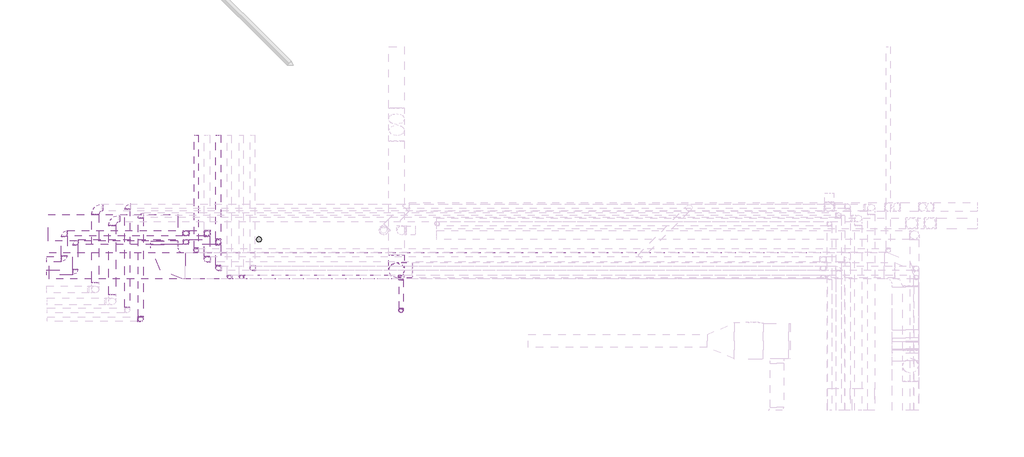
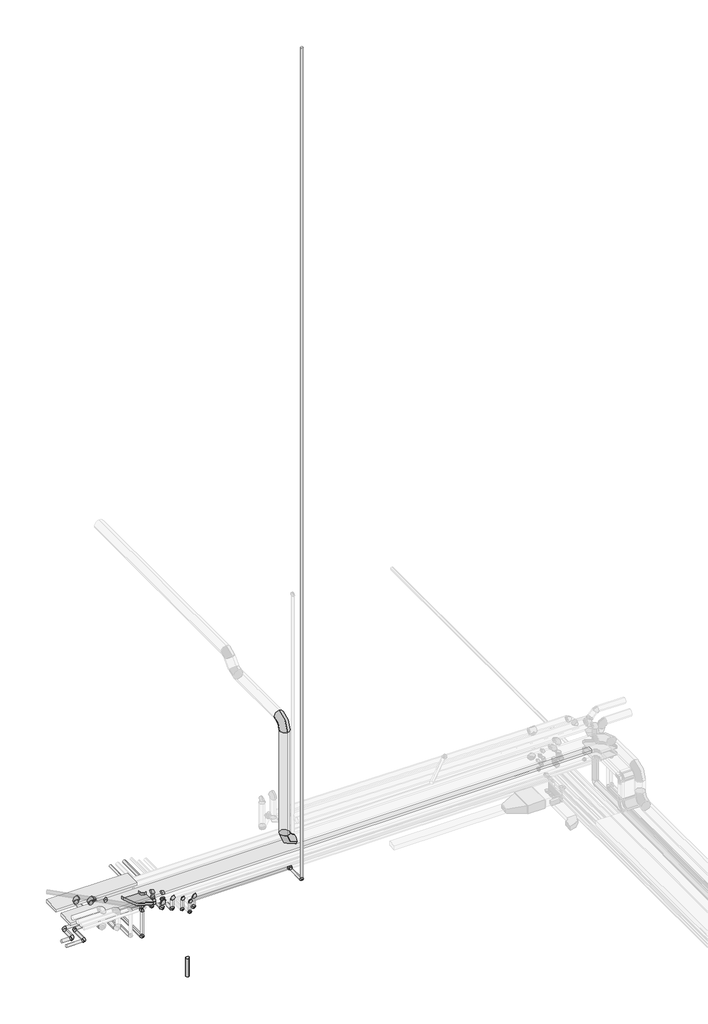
# One storey, part 10 of 12: 32 pipe fittings, 31 pipe segments, 3 cable carrier segments, 2 duct fittings, 1 cable carrier fitting, 1 duct segment.
"""IFC4 building model written with IfcOpenShell, lengths in millimetres."""

from ifc_helpers import new_model, si_unit, point, frame, frame_2d, origin, place, context, project, spatial, polyline, circle_curve, trimmed, segment, composite_curve, outline, extrude, transform, mapped, element, save
from components import m_codo_horizontal_de_canal_el_942b80fb, m_codo_redondo_ext_1_d_63cf0125, pipe_fitting_3b77712d, pipe_fitting_fa3f9604, pipe_fitting_87aeffad, pipe_fitting_2d09eb79, pipe_fitting_e0fa64fe, pipe_fitting_97cb9ba5, pipe_fitting_7933befb, pipe_fitting_996fb7ce, pipe_fitting_18296cc9, pipe_fitting_2828413b

model = new_model("IFC4")

# Units and contexts
model_context = context("Model", 3, world=origin())
ifc_project = project(units=[si_unit("LENGTHUNIT", "METRE", prefix="MILLI")], contexts=[model_context])

# Site, building, storey
site = spatial("IfcSite", under=ifc_project)
building = spatial("IfcBuilding", under=site)
storey = spatial("IfcBuildingStorey", under=building, Name="Nivell -01 PS1_PK", Elevation=1850.0)

# Cable carrier fitting
placement = place(None, origin())
m_codo_horizontal_de_canal_el_shape = m_codo_horizontal_de_canal_el_942b80fb(model_context)
element("IfcCableCarrierFitting", 1, ObjectType="M_Codo horizontal de canal : EL", at=placement, inside=storey, context=model_context, shape_type="MappedRepresentation", body=[
    mapped(m_codo_horizontal_de_canal_el_shape, transform((16669.9823979, 3297.0647098, 5200.0), x_axis=(-1.0, 0.0, 0.0), y_axis=(0.0, -1.0, 0.0), z_axis=(0.0, 0.0, 1.0))),
])

# Cable carrier segments
element("IfcCableCarrierSegment", 2, ObjectType="EL", at=placement, inside=storey, context=model_context, shape_type="SweptSolid", body=[
    extrude(outline(polyline([(32892.3540019, 3597.068534), (32892.3541239, 2997.068534), (14074.9824589, 2997.0647098), (14074.982337, 3597.0647098), (32892.3540019, 3597.068534)])), frame((0.0, 0.0, 5400.0), z_axis=(0.0, 0.0, 1.0), x_axis=(1.0, 0.0, 0.0)), (0.0, 0.0, 1.0), 100.0),
])
element("IfcCableCarrierSegment", 3, ObjectType="EL", at=placement, inside=storey, context=model_context, shape_type="SweptSolid", body=[
    extrude(outline(polyline([(14049.9823979, 3857.9821249), (14049.9823979, 4457.9821249), (16969.9823979, 4457.9821249), (16969.9823979, 3857.9821249), (14049.9823979, 3857.9821249)])), frame((0.0, 0.0, 5400.0), z_axis=(0.0, 0.0, 1.0), x_axis=(1.0, 0.0, 0.0)), (0.0, 0.0, 1.0), 100.0),
])
element("IfcCableCarrierSegment", 4, ObjectType="EL", at=placement, inside=storey, context=model_context, shape_type="SweptSolid", body=[
    extrude(outline(polyline([(16969.9823979, 3772.0647098), (16369.9823979, 3772.0647098), (16369.9823979, 3857.9821249), (16969.9823979, 3857.9821249), (16969.9823979, 3772.0647098)])), frame((0.0, 0.0, 5150.0), z_axis=(0.0, 0.0, 1.0), x_axis=(1.0, 0.0, 0.0)), (0.0, 0.0, 1.0), 100.0),
])

# Duct fittings
m_codo_redondo_ext_1_d_shape = m_codo_redondo_ext_1_d_63cf0125(model_context)
element("IfcDuctFitting", 5, ObjectType="M_Codo redondo : EXT_1 D", at=placement, inside=storey, context=model_context, shape_type="MappedRepresentation", body=[
    mapped(m_codo_redondo_ext_1_d_shape, transform((21901.1871418, 3192.4040569, 10350.0), x_axis=(0.0, 0.0, 1.0), y_axis=(0.0, 1.0, 0.0), z_axis=(-1.0, 0.0, 0.0))),
])
element("IfcDuctFitting", 6, ObjectType="M_Codo redondo : EXT_1 D", at=placement, inside=storey, context=model_context, shape_type="MappedRepresentation", body=[
    mapped(m_codo_redondo_ext_1_d_shape, transform((21901.1871418, 3192.4040569, 5730.0), x_axis=(0.0, 0.0, -1.0), y_axis=(1.0, 0.0, 0.0), z_axis=(0.0, -1.0, 0.0))),
])

# Duct segment
element("IfcDuctSegment", 7, ObjectType="EXT_Acer Galvanitzat - Rígid", at=placement, inside=storey, context=model_context, shape_type="SweptSolid", body=[
    extrude(outline(composite_curve([segment(trimmed(circle_curve(frame_2d((21901.1871418, 3192.4040569)), 175.0), [point((21726.1871418, 3192.4040569))], [point((21901.1871418, 3367.4040569))], False, "CARTESIAN"), True, "CONTINUOUS"), segment(trimmed(circle_curve(frame_2d((21901.1871418, 3192.4040569)), 175.0), [point((21901.1871418, 3367.4040569))], [point((22076.1871418, 3192.4040569))], False, "CARTESIAN"), True, "CONTINUOUS"), segment(trimmed(circle_curve(frame_2d((21901.1871418, 3192.4040569)), 175.0), [point((22076.1871418, 3192.4040569))], [point((21901.1871418, 3017.4040569))], False, "CARTESIAN"), True, "CONTINUOUS"), segment(trimmed(circle_curve(frame_2d((21901.1871418, 3192.4040569)), 175.0), [point((21901.1871418, 3017.4040569))], [point((21726.1871418, 3192.4040569))], False, "CARTESIAN"), True, "CONTINUOUS")], self_intersect=False)), frame((0.0, 0.0, 6080.0), z_axis=(0.0, 0.0, 1.0), x_axis=(1.0, 0.0, 0.0)), (0.0, 0.0, 1.0), 3920.0),
])

# Pipe fittings
pipe_fitting_shape = pipe_fitting_3b77712d(model_context)
element("IfcPipeFitting", 8, ObjectType="M_Codo - Genérico : Estándar", at=placement, inside=storey, context=model_context, shape_type="MappedRepresentation", body=[
    mapped(pipe_fitting_shape, transform((16136.9769568, 2092.9839956, 5850.0), x_axis=(0.0, 0.0, 1.0), y_axis=(0.9999999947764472, -0.0001022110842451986, 0.0), z_axis=(0.0001022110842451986, 0.9999999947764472, 0.0))),
])
element("IfcPipeFitting", 9, ObjectType="M_Codo - Genérico : Estándar", at=placement, inside=storey, context=model_context, shape_type="MappedRepresentation", body=[
    mapped(pipe_fitting_shape, transform((16136.9769568, 2092.9839956, 4795.0), x_axis=(0.0, 0.0, -1.0), y_axis=(-4.268530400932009e-05, -0.9999999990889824, 0.0), z_axis=(-0.9999999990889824, 4.268530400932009e-05, 0.0))),
])
pipe_fitting_2_shape = pipe_fitting_fa3f9604(model_context)
element("IfcPipeFitting", 10, ObjectType="M_Codo - Genérico : Estándar", at=placement, inside=storey, context=model_context, shape_type="MappedRepresentation", body=[
    mapped(pipe_fitting_2_shape, transform((14666.3995886, 3149.7829079, 4545.0), x_axis=(1.0, 0.0, 0.0), y_axis=(0.0, 1.0, 0.0), z_axis=(0.0, 0.0, 1.0))),
])
element("IfcPipeFitting", 11, ObjectType="M_Codo - Genérico : Estándar", at=placement, inside=storey, context=model_context, shape_type="MappedRepresentation", body=[
    mapped(pipe_fitting_2_shape, transform((14666.3995886, 3831.7069686, 4545.0), x_axis=(-1.0, 0.0, 0.0), y_axis=(0.0, -1.0, 0.0), z_axis=(0.0, 0.0, 1.0))),
])
element("IfcPipeFitting", 12, ObjectType="M_Codo - Genérico : Estándar", at=placement, inside=storey, context=model_context, shape_type="MappedRepresentation", body=[
    mapped(pipe_fitting_2_shape, transform((17886.649287, 3241.4395612, 4545.0), x_axis=(0.0, -1.0, 0.0), y_axis=(0.0, 0.0, 1.0), z_axis=(-1.0, 0.0, 0.0))),
])
element("IfcPipeFitting", 13, ObjectType="M_Codo - Genérico : Estándar", at=placement, inside=storey, context=model_context, shape_type="MappedRepresentation", body=[
    mapped(pipe_fitting_2_shape, transform((17886.649287, 3241.4395612, 4995.0), x_axis=(0.0, 0.0, 1.0), y_axis=(1.0, 0.0, 0.0), z_axis=(0.0, 1.0, 0.0))),
])
element("IfcPipeFitting", 14, ObjectType="M_Codo - Genérico : Estándar", at=placement, inside=storey, context=model_context, shape_type="MappedRepresentation", body=[
    mapped(pipe_fitting_2_shape, transform((17158.1058386, 3831.7069686, 4545.0), x_axis=(1.0, 0.0, 0.0), y_axis=(0.0, 0.0, 1.0), z_axis=(0.0, -1.0, 0.0))),
])
element("IfcPipeFitting", 15, ObjectType="M_Codo - Genérico : Estándar", at=placement, inside=storey, context=model_context, shape_type="MappedRepresentation", body=[
    mapped(pipe_fitting_2_shape, transform((17886.649287, 3831.7069686, 4850.0), x_axis=(0.0, 0.0, 1.0), y_axis=(-1.0, 0.0, 0.0), z_axis=(0.0, -1.0, 0.0))),
])
element("IfcPipeFitting", 16, ObjectType="M_Codo - Genérico : Estándar", at=placement, inside=storey, context=model_context, shape_type="MappedRepresentation", body=[
    mapped(pipe_fitting_2_shape, transform((17158.1058386, 3831.7069686, 4850.0), x_axis=(0.0, 0.0, 1.0), y_axis=(1.0, 0.0, 0.0), z_axis=(0.0, 1.0, 0.0))),
])
element("IfcPipeFitting", 17, ObjectType="M_Codo - Genérico : Estándar", at=placement, inside=storey, context=model_context, shape_type="MappedRepresentation", body=[
    mapped(pipe_fitting_2_shape, transform((18657.500884, 3241.4395612, 4345.0), x_axis=(0.0, 0.0, -1.0), y_axis=(0.0, 1.0, 0.0), z_axis=(1.0, 0.0, 0.0))),
])
element("IfcPipeFitting", 18, ObjectType="M_Codo - Genérico : Estándar", at=placement, inside=storey, context=model_context, shape_type="MappedRepresentation", body=[
    mapped(pipe_fitting_2_shape, transform((18657.500884, 3241.4395612, 4795.0), x_axis=(0.0, 0.0, 1.0), y_axis=(1.0, 0.0, 0.0), z_axis=(0.0, 1.0, 0.0))),
])
pipe_fitting_3_shape = pipe_fitting_87aeffad(model_context)
element("IfcPipeFitting", 19, ObjectType="M_Codo - Genérico : Estándar", at=placement, inside=storey, context=model_context, shape_type="MappedRepresentation", body=[
    mapped(pipe_fitting_3_shape, transform((18136.649287, 3041.4395612, 5005.0), x_axis=(-1.0, 0.0, 0.0), y_axis=(0.0, 0.0, -1.0), z_axis=(0.0, -1.0, 0.0))),
])
element("IfcPipeFitting", 20, ObjectType="M_Codo - Genérico : Estándar", at=placement, inside=storey, context=model_context, shape_type="MappedRepresentation", body=[
    mapped(pipe_fitting_3_shape, transform((18136.649287, 3041.4395612, 4555.0), x_axis=(0.0, 0.0, -1.0), y_axis=(0.0, 1.0, 0.0), z_axis=(1.0, 0.0, 0.0))),
])
element("IfcPipeFitting", 21, ObjectType="M_Codo - Genérico : Estándar", at=placement, inside=storey, context=model_context, shape_type="MappedRepresentation", body=[
    mapped(pipe_fitting_3_shape, transform((17384.4945421, 3641.4395612, 4555.0), x_axis=(0.0, -1.0, 0.0), y_axis=(0.0, 0.0, 1.0), z_axis=(-1.0, 0.0, 0.0))),
])
element("IfcPipeFitting", 22, ObjectType="M_Codo - Genérico : Estándar", at=placement, inside=storey, context=model_context, shape_type="MappedRepresentation", body=[
    mapped(pipe_fitting_3_shape, transform((17384.4945421, 3641.4395612, 5005.0), x_axis=(0.0, 0.0, 1.0), y_axis=(1.0, 0.0, 0.0), z_axis=(0.0, 1.0, 0.0))),
])
element("IfcPipeFitting", 23, ObjectType="M_Codo - Genérico : Estándar", at=placement, inside=storey, context=model_context, shape_type="MappedRepresentation", body=[
    mapped(pipe_fitting_3_shape, transform((18407.500884, 3041.4395612, 4355.0), x_axis=(0.0, -1.0, 0.0), y_axis=(0.0, 0.0, 1.0), z_axis=(-1.0, 0.0, 0.0))),
])
element("IfcPipeFitting", 24, ObjectType="M_Codo - Genérico : Estándar", at=placement, inside=storey, context=model_context, shape_type="MappedRepresentation", body=[
    mapped(pipe_fitting_3_shape, transform((18407.500884, 3041.4395612, 4805.0), x_axis=(0.0, 0.0, 1.0), y_axis=(1.0, 0.0, 0.0), z_axis=(0.0, 1.0, 0.0))),
])
element("IfcPipeFitting", 25, ObjectType="M_Codo - Genérico : Estándar", at=placement, inside=storey, context=model_context, shape_type="MappedRepresentation", body=[
    mapped(pipe_fitting_3_shape, transform((22002.359144, 2285.1274433, 4805.0), x_axis=(0.0, 0.0, -1.0), y_axis=(0.0, 1.0, 0.0), z_axis=(1.0, 0.0, 0.0))),
])
pipe_fitting_4_shape = pipe_fitting_2d09eb79(model_context)
element("IfcPipeFitting", 26, ObjectType="M_Te - Genérica : Estándar", at=placement, inside=storey, context=model_context, shape_type="MappedRepresentation", body=[
    mapped(pipe_fitting_4_shape, transform((22002.359144, 3041.4395612, 4805.0), x_axis=(1.0, 0.0, 0.0), y_axis=(0.0, 1.0, 0.0), z_axis=(0.0, 0.0, 1.0))),
])
pipe_fitting_5_shape = pipe_fitting_e0fa64fe(model_context)
element("IfcPipeFitting", 27, ObjectType="M_Codo - Genérico : Estándar", at=placement, inside=storey, context=model_context, shape_type="MappedRepresentation", body=[
    mapped(pipe_fitting_5_shape, transform((14416.3995886, 3449.7829079, 4537.5), x_axis=(1.0, 0.0, 0.0), y_axis=(0.0, 1.0, 0.0), z_axis=(0.0, 0.0, 1.0))),
])
element("IfcPipeFitting", 28, ObjectType="M_Codo - Genérico : Estándar", at=placement, inside=storey, context=model_context, shape_type="MappedRepresentation", body=[
    mapped(pipe_fitting_5_shape, transform((17636.649287, 3441.4395612, 4537.5), x_axis=(0.0, -1.0, 0.0), y_axis=(0.0, 0.0, 1.0), z_axis=(-1.0, 0.0, 0.0))),
])
element("IfcPipeFitting", 29, ObjectType="M_Codo - Genérico : Estándar", at=placement, inside=storey, context=model_context, shape_type="MappedRepresentation", body=[
    mapped(pipe_fitting_5_shape, transform((17636.649287, 3441.4395612, 4787.5), x_axis=(0.0, 0.0, 1.0), y_axis=(1.0, 0.0, 0.0), z_axis=(0.0, 1.0, 0.0))),
])
element("IfcPipeFitting", 30, ObjectType="M_Codo - Genérico : Estándar", at=placement, inside=storey, context=model_context, shape_type="MappedRepresentation", body=[
    mapped(pipe_fitting_5_shape, transform((14416.3995886, 4031.7069686, 4537.5), x_axis=(-1.0, 0.0, 0.0), y_axis=(0.0, -1.0, 0.0), z_axis=(0.0, 0.0, 1.0))),
])
element("IfcPipeFitting", 31, ObjectType="M_Codo - Genérico : Estándar", at=placement, inside=storey, context=model_context, shape_type="MappedRepresentation", body=[
    mapped(pipe_fitting_5_shape, transform((17158.9383365, 4031.7069686, 4537.5), x_axis=(0.0, 0.0, -1.0), y_axis=(-1.0, 0.0, 0.0), z_axis=(0.0, 1.0, 0.0))),
])
element("IfcPipeFitting", 32, ObjectType="M_Codo - Genérico : Estándar", at=placement, inside=storey, context=model_context, shape_type="MappedRepresentation", body=[
    mapped(pipe_fitting_5_shape, transform((17158.9383365, 4031.7069686, 4850.0), x_axis=(0.0, 0.0, 1.0), y_axis=(1.0, 0.0, 0.0), z_axis=(0.0, 1.0, 0.0))),
])
element("IfcPipeFitting", 33, ObjectType="M_Codo - Genérico : Estándar", at=placement, inside=storey, context=model_context, shape_type="MappedRepresentation", body=[
    mapped(pipe_fitting_5_shape, transform((17636.649287, 4031.7069686, 4850.0), x_axis=(0.0, 0.0, 1.0), y_axis=(-1.0, 0.0, 0.0), z_axis=(0.0, -1.0, 0.0))),
])
pipe_fitting_6_shape = pipe_fitting_97cb9ba5(model_context)
element("IfcPipeFitting", 34, ObjectType="M_Te - Genérica : Estándar", at=placement, inside=storey, context=model_context, shape_type="MappedRepresentation", body=[
    mapped(pipe_fitting_6_shape, transform((17636.649287, 4031.7069686, 4537.5), x_axis=(0.0, 1.0, 0.0), y_axis=(0.0, 0.0, -1.0), z_axis=(-1.0, 0.0, 0.0))),
])
pipe_fitting_7_shape = pipe_fitting_7933befb(model_context)
element("IfcPipeFitting", 35, ObjectType="M_Te - Genérica : Estándar", at=placement, inside=storey, context=model_context, shape_type="MappedRepresentation", body=[
    mapped(pipe_fitting_7_shape, transform((17886.649287, 3831.7069686, 4545.0), x_axis=(0.0, -1.0, 0.0), y_axis=(0.0, 0.0, -1.0), z_axis=(1.0, 0.0, 0.0))),
])
pipe_fitting_8_shape = pipe_fitting_996fb7ce(model_context)
element("IfcPipeFitting", 36, ObjectType="M_Codo - Genérico : Estándar", at=placement, inside=storey, context=model_context, shape_type="MappedRepresentation", body=[
    mapped(pipe_fitting_8_shape, transform((16137.0623018, 4439.2153677, 4795.0), x_axis=(-5.689495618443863e-05, 0.999999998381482, 0.0), y_axis=(-0.999999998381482, -5.689495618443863e-05, 0.0), z_axis=(0.0, 0.0, 1.0))),
])
pipe_fitting_9_shape = pipe_fitting_18296cc9(model_context)
element("IfcPipeFitting", 37, ObjectType="M_Codo - Genérico : Estándar", at=placement, inside=storey, context=model_context, shape_type="MappedRepresentation", body=[
    mapped(pipe_fitting_9_shape, transform((15837.0598197, 4639.2237064, 4795.0), x_axis=(-0.9999999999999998, -2.2515615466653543e-08, 0.0), y_axis=(2.2515615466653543e-08, -0.9999999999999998, 0.0), z_axis=(0.0, 0.0, 1.0))),
])
pipe_fitting_10_shape = pipe_fitting_2828413b(model_context)
element("IfcPipeFitting", 38, ObjectType="Codo 90º Soldadura a Tope SDR 11 BluePipe : Estándar", at=placement, inside=storey, context=model_context, shape_type="MappedRepresentation", body=[
    mapped(pipe_fitting_10_shape, transform((15497.0783973, 4358.8328238, 5050.0), x_axis=(-0.9999999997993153, -2.0034207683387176e-05, 0.0), y_axis=(2.0034207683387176e-05, -0.9999999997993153, 0.0), z_axis=(0.0, 0.0, 1.0))),
])
element("IfcPipeFitting", 39, ObjectType="Codo 90º Soldadura a Tope SDR 11 BluePipe : Estándar", at=placement, inside=storey, context=model_context, shape_type="MappedRepresentation", body=[
    mapped(pipe_fitting_10_shape, transform((15117.0704267, 4608.760649, 5050.0000696), x_axis=(-0.9999999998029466, -1.985212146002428e-05, 0.0), y_axis=(1.985212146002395e-05, -0.9999999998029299, -1.8351755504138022e-07), z_axis=(3.643212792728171e-12, -1.8351755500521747e-07, 0.9999999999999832))),
])

# Pipe segments
element("IfcPipeSegment", 40, ObjectType="PVC_Baixant", at=placement, inside=storey, context=model_context, shape_type="SweptSolid", body=[
    extrude(outline(composite_curve([segment(trimmed(circle_curve(frame_2d((18802.8918148, 3893.6005797)), 62.5), [point((18740.3918148, 3893.6005797))], [point((18802.8918148, 3956.1005797))], False, "CARTESIAN"), True, "CONTINUOUS"), segment(trimmed(circle_curve(frame_2d((18802.8918148, 3893.6005797)), 62.5), [point((18802.8918148, 3956.1005797))], [point((18865.3918148, 3893.6005797))], False, "CARTESIAN"), True, "CONTINUOUS"), segment(trimmed(circle_curve(frame_2d((18802.8918148, 3893.6005797)), 62.5), [point((18865.3918148, 3893.6005797))], [point((18802.8918148, 3831.1005797))], False, "CARTESIAN"), True, "CONTINUOUS"), segment(trimmed(circle_curve(frame_2d((18802.8918148, 3893.6005797)), 62.5), [point((18802.8918148, 3831.1005797))], [point((18740.3918148, 3893.6005797))], False, "CARTESIAN"), True, "CONTINUOUS")], self_intersect=False)), frame((0.0, 0.0, 1287.1903101), z_axis=(0.0, 0.0, 1.0), x_axis=(1.0, 0.0, 0.0)), (0.0, 0.0, 1.0), 700.0),
])
element("IfcPipeSegment", 41, ObjectType="PP_FN", at=placement, inside=storey, context=model_context, shape_type="SweptSolid", body=[
    extrude(outline(composite_curve([segment(trimmed(circle_curve(frame_2d((4555.0, 17384.4945421)), 45.0), [point((4555.0, 17429.4945421))], [point((4600.0, 17384.4945421))], False, "CARTESIAN"), True, "CONTINUOUS"), segment(trimmed(circle_curve(frame_2d((4555.0, 17384.4945421)), 45.0), [point((4600.0, 17384.4945421))], [point((4555.0, 17339.4945421))], False, "CARTESIAN"), True, "CONTINUOUS"), segment(trimmed(circle_curve(frame_2d((4555.0, 17384.4945421)), 45.0), [point((4555.0, 17339.4945421))], [point((4510.0, 17384.4945421))], False, "CARTESIAN"), True, "CONTINUOUS"), segment(trimmed(circle_curve(frame_2d((4555.0, 17384.4945421)), 45.0), [point((4510.0, 17384.4945421))], [point((4555.0, 17429.4945421))], False, "CARTESIAN"), True, "CONTINUOUS")], self_intersect=False)), frame((0.0, 3693.8270612, 0.0), z_axis=(0.0, 1.0, 0.0), x_axis=(0.0, 0.0, 1.0)), (0.0, 0.0, 1.0), 2547.6125),
])
element("IfcPipeSegment", 42, ObjectType="PP_FN", at=placement, inside=storey, context=model_context, shape_type="SweptSolid", body=[
    extrude(outline(composite_curve([segment(trimmed(circle_curve(frame_2d((4537.5, 14416.3995886)), 62.5), [point((4537.5, 14353.8995886))], [point((4475.0, 14416.3995886))], False, "CARTESIAN"), True, "CONTINUOUS"), segment(trimmed(circle_curve(frame_2d((4537.5, 14416.3995886)), 62.5), [point((4475.0, 14416.3995886))], [point((4537.5, 14478.8995886))], False, "CARTESIAN"), True, "CONTINUOUS"), segment(trimmed(circle_curve(frame_2d((4537.5, 14416.3995886)), 62.5), [point((4537.5, 14478.8995886))], [point((4600.0, 14416.3995886))], False, "CARTESIAN"), True, "CONTINUOUS"), segment(trimmed(circle_curve(frame_2d((4537.5, 14416.3995886)), 62.5), [point((4600.0, 14416.3995886))], [point((4537.5, 14353.8995886))], False, "CARTESIAN"), True, "CONTINUOUS")], self_intersect=False)), frame((0.0, 3521.2204079, 0.0), z_axis=(0.0, 1.0, 0.0), x_axis=(0.0, 0.0, 1.0)), (0.0, 0.0, 1.0), 439.0490607),
])
element("IfcPipeSegment", 43, ObjectType="PP_FN", at=placement, inside=storey, context=model_context, shape_type="SweptSolid", body=[
    extrude(outline(composite_curve([segment(trimmed(circle_curve(frame_2d((4545.0, 14666.3995886)), 55.0), [point((4545.0, 14611.3995886))], [point((4490.0, 14666.3995886))], False, "CARTESIAN"), True, "CONTINUOUS"), segment(trimmed(circle_curve(frame_2d((4545.0, 14666.3995886)), 55.0), [point((4490.0, 14666.3995886))], [point((4545.0, 14721.3995886))], False, "CARTESIAN"), True, "CONTINUOUS"), segment(trimmed(circle_curve(frame_2d((4545.0, 14666.3995886)), 55.0), [point((4545.0, 14721.3995886))], [point((4600.0, 14666.3995886))], False, "CARTESIAN"), True, "CONTINUOUS"), segment(trimmed(circle_curve(frame_2d((4545.0, 14666.3995886)), 55.0), [point((4600.0, 14666.3995886))], [point((4545.0, 14611.3995886))], False, "CARTESIAN"), True, "CONTINUOUS")], self_intersect=False)), frame((0.0, 3212.7204079, 0.0), z_axis=(0.0, 1.0, 0.0), x_axis=(0.0, 0.0, 1.0)), (0.0, 0.0, 1.0), 556.0490607),
])
element("IfcPipeSegment", 44, ObjectType="PP_FN", at=placement, inside=storey, context=model_context, shape_type="SweptSolid", body=[
    extrude(outline(composite_curve([segment(trimmed(circle_curve(frame_2d((3449.7829079, 4537.5)), 62.5), [point((3512.2829079, 4537.5))], [point((3449.7829079, 4475.0))], False, "CARTESIAN"), True, "CONTINUOUS"), segment(trimmed(circle_curve(frame_2d((3449.7829079, 4537.5)), 62.5), [point((3449.7829079, 4475.0))], [point((3387.2829079, 4537.5))], False, "CARTESIAN"), True, "CONTINUOUS"), segment(trimmed(circle_curve(frame_2d((3449.7829079, 4537.5)), 62.5), [point((3387.2829079, 4537.5))], [point((3449.7829079, 4600.0))], False, "CARTESIAN"), True, "CONTINUOUS"), segment(trimmed(circle_curve(frame_2d((3449.7829079, 4537.5)), 62.5), [point((3449.7829079, 4600.0))], [point((3512.2829079, 4537.5))], False, "CARTESIAN"), True, "CONTINUOUS")], self_intersect=False)), frame((14017.132411, 0.0, 0.0), z_axis=(1.0, 0.0, 0.0), x_axis=(0.0, 1.0, 0.0)), (0.0, 0.0, 1.0), 327.8296777),
])
element("IfcPipeSegment", 45, ObjectType="PP_FN", at=placement, inside=storey, context=model_context, shape_type="SweptSolid", body=[
    extrude(outline(composite_curve([segment(trimmed(circle_curve(frame_2d((3149.7829079, 4545.0)), 55.0), [point((3204.7829079, 4545.0))], [point((3149.7829079, 4490.0))], False, "CARTESIAN"), True, "CONTINUOUS"), segment(trimmed(circle_curve(frame_2d((3149.7829079, 4545.0)), 55.0), [point((3149.7829079, 4490.0))], [point((3094.7829079, 4545.0))], False, "CARTESIAN"), True, "CONTINUOUS"), segment(trimmed(circle_curve(frame_2d((3149.7829079, 4545.0)), 55.0), [point((3094.7829079, 4545.0))], [point((3149.7829079, 4600.0))], False, "CARTESIAN"), True, "CONTINUOUS"), segment(trimmed(circle_curve(frame_2d((3149.7829079, 4545.0)), 55.0), [point((3149.7829079, 4600.0))], [point((3204.7829079, 4545.0))], False, "CARTESIAN"), True, "CONTINUOUS")], self_intersect=False)), frame((14017.1331632, 0.0, 0.0), z_axis=(1.0, 0.0, 0.0), x_axis=(0.0, 1.0, 0.0)), (0.0, 0.0, 1.0), 586.3289255),
])
element("IfcPipeSegment", 46, ObjectType="PP_FN", at=placement, inside=storey, context=model_context, shape_type="SweptSolid", body=[
    extrude(outline(composite_curve([segment(trimmed(circle_curve(frame_2d((17886.649287, 3831.7069686)), 55.0), [point((17831.649287, 3831.7069686))], [point((17886.649287, 3886.7069686))], False, "CARTESIAN"), True, "CONTINUOUS"), segment(trimmed(circle_curve(frame_2d((17886.649287, 3831.7069686)), 55.0), [point((17886.649287, 3886.7069686))], [point((17941.649287, 3831.7069686))], False, "CARTESIAN"), True, "CONTINUOUS"), segment(trimmed(circle_curve(frame_2d((17886.649287, 3831.7069686)), 55.0), [point((17941.649287, 3831.7069686))], [point((17886.649287, 3776.7069686))], False, "CARTESIAN"), True, "CONTINUOUS"), segment(trimmed(circle_curve(frame_2d((17886.649287, 3831.7069686)), 55.0), [point((17886.649287, 3776.7069686))], [point((17831.649287, 3831.7069686))], False, "CARTESIAN"), True, "CONTINUOUS")], self_intersect=False)), frame((0.0, 0.0, 4614.2875), z_axis=(0.0, 0.0, 1.0), x_axis=(1.0, 0.0, 0.0)), (0.0, 0.0, 1.0), 172.775),
])
element("IfcPipeSegment", 47, ObjectType="PP_FN", at=placement, inside=storey, context=model_context, shape_type="SweptSolid", body=[
    extrude(outline(composite_curve([segment(trimmed(circle_curve(frame_2d((4545.0, 17886.649287)), 55.0), [point((4545.0, 17831.649287))], [point((4490.0, 17886.649287))], False, "CARTESIAN"), True, "CONTINUOUS"), segment(trimmed(circle_curve(frame_2d((4545.0, 17886.649287)), 55.0), [point((4490.0, 17886.649287))], [point((4545.0, 17941.649287))], False, "CARTESIAN"), True, "CONTINUOUS"), segment(trimmed(circle_curve(frame_2d((4545.0, 17886.649287)), 55.0), [point((4545.0, 17941.649287))], [point((4600.0, 17886.649287))], False, "CARTESIAN"), True, "CONTINUOUS"), segment(trimmed(circle_curve(frame_2d((4545.0, 17886.649287)), 55.0), [point((4600.0, 17886.649287))], [point((4545.0, 17831.649287))], False, "CARTESIAN"), True, "CONTINUOUS")], self_intersect=False)), frame((0.0, 3900.9944686, 0.0), z_axis=(0.0, 1.0, 0.0), x_axis=(0.0, 0.0, 1.0)), (0.0, 0.0, 1.0), 2340.4450926),
])
element("IfcPipeSegment", 48, ObjectType="PP_FN", at=placement, inside=storey, context=model_context, shape_type="SweptSolid", body=[
    extrude(outline(composite_curve([segment(trimmed(circle_curve(frame_2d((4545.0, 17886.649287)), 55.0), [point((4545.0, 17941.649287))], [point((4600.0, 17886.649287))], False, "CARTESIAN"), True, "CONTINUOUS"), segment(trimmed(circle_curve(frame_2d((4545.0, 17886.649287)), 55.0), [point((4600.0, 17886.649287))], [point((4545.0, 17831.649287))], False, "CARTESIAN"), True, "CONTINUOUS"), segment(trimmed(circle_curve(frame_2d((4545.0, 17886.649287)), 55.0), [point((4545.0, 17831.649287))], [point((4490.0, 17886.649287))], False, "CARTESIAN"), True, "CONTINUOUS"), segment(trimmed(circle_curve(frame_2d((4545.0, 17886.649287)), 55.0), [point((4490.0, 17886.649287))], [point((4545.0, 17941.649287))], False, "CARTESIAN"), True, "CONTINUOUS")], self_intersect=False)), frame((0.0, 3304.3770612, 0.0), z_axis=(0.0, 1.0, 0.0), x_axis=(0.0, 0.0, 1.0)), (0.0, 0.0, 1.0), 458.0424074),
])
element("IfcPipeSegment", 49, ObjectType="PP_FN", at=placement, inside=storey, context=model_context, shape_type="SweptSolid", body=[
    extrude(outline(composite_curve([segment(trimmed(circle_curve(frame_2d((4805.0, 22002.359144)), 45.0), [point((4805.0, 22047.359144))], [point((4850.0, 22002.359144))], False, "CARTESIAN"), True, "CONTINUOUS"), segment(trimmed(circle_curve(frame_2d((4805.0, 22002.359144)), 45.0), [point((4850.0, 22002.359144))], [point((4805.0, 21957.359144))], False, "CARTESIAN"), True, "CONTINUOUS"), segment(trimmed(circle_curve(frame_2d((4805.0, 22002.359144)), 45.0), [point((4805.0, 21957.359144))], [point((4760.0, 22002.359144))], False, "CARTESIAN"), True, "CONTINUOUS"), segment(trimmed(circle_curve(frame_2d((4805.0, 22002.359144)), 45.0), [point((4760.0, 22002.359144))], [point((4805.0, 22047.359144))], False, "CARTESIAN"), True, "CONTINUOUS")], self_intersect=False)), frame((0.0, 2337.5149433, 0.0), z_axis=(0.0, 1.0, 0.0), x_axis=(0.0, 0.0, 1.0)), (0.0, 0.0, 1.0), 645.1871179),
])
element("IfcPipeSegment", 50, ObjectType="PP_FN", at=placement, inside=storey, context=model_context, shape_type="SweptSolid", body=[
    extrude(outline(composite_curve([segment(trimmed(circle_curve(frame_2d((22002.359144, 2285.1274433)), 45.0), [point((22047.359144, 2285.1274433))], [point((22002.359144, 2240.1274433))], False, "CARTESIAN"), True, "CONTINUOUS"), segment(trimmed(circle_curve(frame_2d((22002.359144, 2285.1274433)), 45.0), [point((22002.359144, 2240.1274433))], [point((21957.359144, 2285.1274433))], False, "CARTESIAN"), True, "CONTINUOUS"), segment(trimmed(circle_curve(frame_2d((22002.359144, 2285.1274433)), 45.0), [point((21957.359144, 2285.1274433))], [point((22002.359144, 2330.1274433))], False, "CARTESIAN"), True, "CONTINUOUS"), segment(trimmed(circle_curve(frame_2d((22002.359144, 2285.1274433)), 45.0), [point((22002.359144, 2330.1274433))], [point((22047.359144, 2285.1274433))], False, "CARTESIAN"), True, "CONTINUOUS")], self_intersect=False)), frame((0.0, 0.0, 4857.3875), z_axis=(0.0, 0.0, 1.0), x_axis=(1.0, 0.0, 0.0)), (0.0, 0.0, 1.0), 31642.6125),
])
element("IfcPipeSegment", 51, ObjectType="PPR_CLI_Aquatherm Blue Pipe", at=placement, inside=storey, context=model_context, shape_type="SweptSolid", body=[
    extrude(outline(composite_curve([segment(trimmed(circle_curve(frame_2d((0.0, 80.0000001)), 80.0), [point((0.0, 160.0))], [point((80.0, 80.0000001))], False, "CARTESIAN"), True, "CONTINUOUS"), segment(trimmed(circle_curve(frame_2d((0.0, 80.0000001)), 80.0), [point((80.0, 80.0000001))], [point((0.0, 0.0))], False, "CARTESIAN"), True, "CONTINUOUS"), segment(trimmed(circle_curve(frame_2d((0.0, 80.0000001)), 80.0), [point((0.0, 0.0))], [point((-80.0, 80.0000001))], False, "CARTESIAN"), True, "CONTINUOUS"), segment(trimmed(circle_curve(frame_2d((0.0, 80.0000001)), 80.0), [point((-80.0, 80.0000001))], [point((0.0, 160.0))], False, "CARTESIAN"), True, "CONTINUOUS")], self_intersect=False)), frame((15037.1728997, 2907.9445938, 5049.9997574), z_axis=(-6.488271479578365e-05, 0.9999999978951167, 0.0), x_axis=(0.0, 0.0, 1.0)), (0.0, 0.0, 1.0), 1555.8108678),
])
element("IfcPipeSegment", 52, ObjectType="PPR_CLI_Aquatherm Blue Pipe", at=placement, inside=storey, context=model_context, shape_type="SweptSolid", body=[
    extrude(outline(composite_curve([segment(trimmed(circle_curve(frame_2d((0.0, 80.0)), 80.0), [point((0.0, 160.0))], [point((80.0, 80.0))], False, "CARTESIAN"), True, "CONTINUOUS"), segment(trimmed(circle_curve(frame_2d((0.0, 80.0)), 80.0), [point((80.0, 80.0))], [point((0.0, 0.0))], False, "CARTESIAN"), True, "CONTINUOUS"), segment(trimmed(circle_curve(frame_2d((0.0, 80.0)), 80.0), [point((0.0, 0.0))], [point((-80.0, 80.0))], False, "CARTESIAN"), True, "CONTINUOUS"), segment(trimmed(circle_curve(frame_2d((0.0, 80.0)), 80.0), [point((-80.0, 80.0))], [point((0.0, 160.0))], False, "CARTESIAN"), True, "CONTINUOUS")], self_intersect=False)), frame((15417.1825772, 2637.9198806, 5050.0), z_axis=(-6.512273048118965e-05, 0.999999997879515, 0.0), x_axis=(0.0, 0.0, 1.0)), (0.0, 0.0, 1.0), 1575.9077367),
])
element("IfcPipeSegment", 53, ObjectType="PPR_CLI_Aquatherm Blue Pipe", at=placement, inside=storey, context=model_context, shape_type="SweptSolid", body=[
    extrude(outline(composite_curve([segment(trimmed(circle_curve(frame_2d((0.0, 55.0)), 55.0), [point((0.0, 110.0))], [point((55.0, 55.0))], False, "CARTESIAN"), True, "CONTINUOUS"), segment(trimmed(circle_curve(frame_2d((0.0, 55.0)), 55.0), [point((55.0, 55.0))], [point((0.0, 0.0))], False, "CARTESIAN"), True, "CONTINUOUS"), segment(trimmed(circle_curve(frame_2d((0.0, 55.0)), 55.0), [point((0.0, 0.0))], [point((-55.0, 55.0))], False, "CARTESIAN"), True, "CONTINUOUS"), segment(trimmed(circle_curve(frame_2d((0.0, 55.0)), 55.0), [point((-55.0, 55.0))], [point((0.0, 110.0))], False, "CARTESIAN"), True, "CONTINUOUS")], self_intersect=False)), frame((15781.9713791, 2355.9718923, 4795.0), z_axis=(3.873446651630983e-05, 0.9999999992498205, 0.0), x_axis=(0.0, 0.0, 1.0)), (0.0, 0.0, 1.0), 2220.3188854),
])
element("IfcPipeSegment", 54, ObjectType="PPR_CLI_Aquatherm Blue Pipe", at=placement, inside=storey, context=model_context, shape_type="SweptSolid", body=[
    extrude(outline(composite_curve([segment(trimmed(circle_curve(frame_2d((0.0, -54.9999999)), 55.0), [point((0.0, 0.0))], [point((55.0, -54.9999999))], False, "CARTESIAN"), True, "CONTINUOUS"), segment(trimmed(circle_curve(frame_2d((0.0, -54.9999999)), 55.0), [point((55.0, -54.9999999))], [point((0.0, -110.0))], False, "CARTESIAN"), True, "CONTINUOUS"), segment(trimmed(circle_curve(frame_2d((0.0, -54.9999999)), 55.0), [point((0.0, -110.0))], [point((-55.0, -54.9999999))], False, "CARTESIAN"), True, "CONTINUOUS"), segment(trimmed(circle_curve(frame_2d((0.0, -54.9999999)), 55.0), [point((-55.0, -54.9999999))], [point((0.0, 0.0))], False, "CARTESIAN"), True, "CONTINUOUS")], self_intersect=False)), frame((16081.9796434, 2155.9236318, 4795.0), z_axis=(3.8840451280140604e-05, 0.9999999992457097, 0.0), x_axis=(0.0, 0.0, -1.0)), (0.0, 0.0, 1.0), 2220.3527931),
])
element("IfcPipeSegment", 55, ObjectType="PPR_CLI_Aquatherm Blue Pipe", at=placement, inside=storey, context=model_context, shape_type="SweptSolid", body=[
    extrude(outline(composite_curve([segment(trimmed(circle_curve(frame_2d((16136.9769568, 2092.9839956)), 55.0), [point((16081.9769568, 2092.9839956))], [point((16136.9769568, 2147.9839956))], False, "CARTESIAN"), True, "CONTINUOUS"), segment(trimmed(circle_curve(frame_2d((16136.9769568, 2092.9839956)), 55.0), [point((16136.9769568, 2147.9839956))], [point((16191.9769568, 2092.9839956))], False, "CARTESIAN"), True, "CONTINUOUS"), segment(trimmed(circle_curve(frame_2d((16136.9769568, 2092.9839956)), 55.0), [point((16191.9769568, 2092.9839956))], [point((16136.9769568, 2037.9839956))], False, "CARTESIAN"), True, "CONTINUOUS"), segment(trimmed(circle_curve(frame_2d((16136.9769568, 2092.9839956)), 55.0), [point((16136.9769568, 2037.9839956))], [point((16081.9769568, 2092.9839956))], False, "CARTESIAN"), True, "CONTINUOUS")], self_intersect=False)), frame((0.0, 0.0, 4857.9375), z_axis=(0.0, 0.0, 1.0), x_axis=(1.0, 0.0, 0.0)), (0.0, 0.0, 1.0), 929.125),
])
element("IfcPipeSegment", 56, ObjectType="PP_FN", at=placement, inside=storey, context=model_context, shape_type="SweptSolid", body=[
    extrude(outline(composite_curve([segment(trimmed(circle_curve(frame_2d((18136.649287, 3041.4395612)), 45.0), [point((18181.649287, 3041.4395612))], [point((18136.649287, 2996.4395612))], False, "CARTESIAN"), True, "CONTINUOUS"), segment(trimmed(circle_curve(frame_2d((18136.649287, 3041.4395612)), 45.0), [point((18136.649287, 2996.4395612))], [point((18091.649287, 3041.4395612))], False, "CARTESIAN"), True, "CONTINUOUS"), segment(trimmed(circle_curve(frame_2d((18136.649287, 3041.4395612)), 45.0), [point((18091.649287, 3041.4395612))], [point((18136.649287, 3086.4395612))], False, "CARTESIAN"), True, "CONTINUOUS"), segment(trimmed(circle_curve(frame_2d((18136.649287, 3041.4395612)), 45.0), [point((18136.649287, 3086.4395612))], [point((18181.649287, 3041.4395612))], False, "CARTESIAN"), True, "CONTINUOUS")], self_intersect=False)), frame((0.0, 0.0, 4607.3875), z_axis=(0.0, 0.0, 1.0), x_axis=(1.0, 0.0, 0.0)), (0.0, 0.0, 1.0), 345.225),
])
element("IfcPipeSegment", 57, ObjectType="PP_FN", at=placement, inside=storey, context=model_context, shape_type="SweptSolid", body=[
    extrude(outline(composite_curve([segment(trimmed(circle_curve(frame_2d((17886.649287, 3241.4395612)), 55.0), [point((17831.649287, 3241.4395612))], [point((17886.649287, 3296.4395612))], False, "CARTESIAN"), True, "CONTINUOUS"), segment(trimmed(circle_curve(frame_2d((17886.649287, 3241.4395612)), 55.0), [point((17886.649287, 3296.4395612))], [point((17941.649287, 3241.4395612))], False, "CARTESIAN"), True, "CONTINUOUS"), segment(trimmed(circle_curve(frame_2d((17886.649287, 3241.4395612)), 55.0), [point((17941.649287, 3241.4395612))], [point((17886.649287, 3186.4395612))], False, "CARTESIAN"), True, "CONTINUOUS"), segment(trimmed(circle_curve(frame_2d((17886.649287, 3241.4395612)), 55.0), [point((17886.649287, 3186.4395612))], [point((17831.649287, 3241.4395612))], False, "CARTESIAN"), True, "CONTINUOUS")], self_intersect=False)), frame((0.0, 0.0, 4607.9375), z_axis=(0.0, 0.0, 1.0), x_axis=(1.0, 0.0, 0.0)), (0.0, 0.0, 1.0), 324.125),
])
element("IfcPipeSegment", 58, ObjectType="PP_FN", at=placement, inside=storey, context=model_context, shape_type="SweptSolid", body=[
    extrude(outline(composite_curve([segment(trimmed(circle_curve(frame_2d((17636.649287, 3441.4395612)), 62.5), [point((17574.149287, 3441.4395612))], [point((17636.649287, 3503.9395612))], False, "CARTESIAN"), True, "CONTINUOUS"), segment(trimmed(circle_curve(frame_2d((17636.649287, 3441.4395612)), 62.5), [point((17636.649287, 3503.9395612))], [point((17699.149287, 3441.4395612))], False, "CARTESIAN"), True, "CONTINUOUS"), segment(trimmed(circle_curve(frame_2d((17636.649287, 3441.4395612)), 62.5), [point((17699.149287, 3441.4395612))], [point((17636.649287, 3378.9395612))], False, "CARTESIAN"), True, "CONTINUOUS"), segment(trimmed(circle_curve(frame_2d((17636.649287, 3441.4395612)), 62.5), [point((17636.649287, 3378.9395612))], [point((17574.149287, 3441.4395612))], False, "CARTESIAN"), True, "CONTINUOUS")], self_intersect=False)), frame((0.0, 0.0, 4608.9375), z_axis=(0.0, 0.0, 1.0), x_axis=(1.0, 0.0, 0.0)), (0.0, 0.0, 1.0), 107.125),
])
element("IfcPipeSegment", 59, ObjectType="PP_FN", at=placement, inside=storey, context=model_context, shape_type="SweptSolid", body=[
    extrude(outline(composite_curve([segment(trimmed(circle_curve(frame_2d((17384.4945421, 3641.4395612)), 45.0), [point((17339.4945421, 3641.4395612))], [point((17384.4945421, 3686.4395612))], False, "CARTESIAN"), True, "CONTINUOUS"), segment(trimmed(circle_curve(frame_2d((17384.4945421, 3641.4395612)), 45.0), [point((17384.4945421, 3686.4395612))], [point((17429.4945421, 3641.4395612))], False, "CARTESIAN"), True, "CONTINUOUS"), segment(trimmed(circle_curve(frame_2d((17384.4945421, 3641.4395612)), 45.0), [point((17429.4945421, 3641.4395612))], [point((17384.4945421, 3596.4395612))], False, "CARTESIAN"), True, "CONTINUOUS"), segment(trimmed(circle_curve(frame_2d((17384.4945421, 3641.4395612)), 45.0), [point((17384.4945421, 3596.4395612))], [point((17339.4945421, 3641.4395612))], False, "CARTESIAN"), True, "CONTINUOUS")], self_intersect=False)), frame((0.0, 0.0, 4607.3875), z_axis=(0.0, 0.0, 1.0), x_axis=(1.0, 0.0, 0.0)), (0.0, 0.0, 1.0), 345.225),
])
element("IfcPipeSegment", 60, ObjectType="PP_FN", at=placement, inside=storey, context=model_context, shape_type="SweptSolid", body=[
    extrude(outline(composite_curve([segment(trimmed(circle_curve(frame_2d((4537.5, 17636.649287)), 62.5), [point((4537.5, 17574.149287))], [point((4475.0, 17636.649287))], False, "CARTESIAN"), True, "CONTINUOUS"), segment(trimmed(circle_curve(frame_2d((4537.5, 17636.649287)), 62.5), [point((4475.0, 17636.649287))], [point((4537.5, 17699.149287))], False, "CARTESIAN"), True, "CONTINUOUS"), segment(trimmed(circle_curve(frame_2d((4537.5, 17636.649287)), 62.5), [point((4537.5, 17699.149287))], [point((4600.0, 17636.649287))], False, "CARTESIAN"), True, "CONTINUOUS"), segment(trimmed(circle_curve(frame_2d((4537.5, 17636.649287)), 62.5), [point((4600.0, 17636.649287))], [point((4537.5, 17574.149287))], False, "CARTESIAN"), True, "CONTINUOUS")], self_intersect=False)), frame((0.0, 3512.8770612, 0.0), z_axis=(0.0, 1.0, 0.0), x_axis=(0.0, 0.0, 1.0)), (0.0, 0.0, 1.0), 441.0424074),
])
element("IfcPipeSegment", 61, ObjectType="PP_FN", at=placement, inside=storey, context=model_context, shape_type="SweptSolid", body=[
    extrude(outline(composite_curve([segment(trimmed(circle_curve(frame_2d((4031.7069686, 4537.5)), 62.5), [point((3969.2069686, 4537.5))], [point((4031.7069686, 4600.0))], False, "CARTESIAN"), True, "CONTINUOUS"), segment(trimmed(circle_curve(frame_2d((4031.7069686, 4537.5)), 62.5), [point((4031.7069686, 4600.0))], [point((4094.2069686, 4537.5))], False, "CARTESIAN"), True, "CONTINUOUS"), segment(trimmed(circle_curve(frame_2d((4031.7069686, 4537.5)), 62.5), [point((4094.2069686, 4537.5))], [point((4031.7069686, 4475.0))], False, "CARTESIAN"), True, "CONTINUOUS"), segment(trimmed(circle_curve(frame_2d((4031.7069686, 4537.5)), 62.5), [point((4031.7069686, 4475.0))], [point((3969.2069686, 4537.5))], False, "CARTESIAN"), True, "CONTINUOUS")], self_intersect=False)), frame((14487.8370886, 0.0, 0.0), z_axis=(1.0, 0.0, 0.0), x_axis=(0.0, 1.0, 0.0)), (0.0, 0.0, 1.0), 2599.6637478),
])
element("IfcPipeSegment", 62, ObjectType="PP_FN", at=placement, inside=storey, context=model_context, shape_type="SweptSolid", body=[
    extrude(outline(composite_curve([segment(trimmed(circle_curve(frame_2d((3831.7069686, 4850.0)), 55.0), [point((3886.7069686, 4850.0))], [point((3831.7069686, 4795.0))], False, "CARTESIAN"), True, "CONTINUOUS"), segment(trimmed(circle_curve(frame_2d((3831.7069686, 4850.0)), 55.0), [point((3831.7069686, 4795.0))], [point((3776.7069686, 4850.0))], False, "CARTESIAN"), True, "CONTINUOUS"), segment(trimmed(circle_curve(frame_2d((3831.7069686, 4850.0)), 55.0), [point((3776.7069686, 4850.0))], [point((3831.7069686, 4905.0))], False, "CARTESIAN"), True, "CONTINUOUS"), segment(trimmed(circle_curve(frame_2d((3831.7069686, 4850.0)), 55.0), [point((3831.7069686, 4905.0))], [point((3886.7069686, 4850.0))], False, "CARTESIAN"), True, "CONTINUOUS")], self_intersect=False)), frame((17221.0433386, 0.0, 0.0), z_axis=(1.0, 0.0, 0.0), x_axis=(0.0, 1.0, 0.0)), (0.0, 0.0, 1.0), 602.6684484),
])
element("IfcPipeSegment", 63, ObjectType="PP_FN", at=placement, inside=storey, context=model_context, shape_type="SweptSolid", body=[
    extrude(outline(composite_curve([segment(trimmed(circle_curve(frame_2d((3831.7069686, 4545.0)), 55.0), [point((3776.7069686, 4545.0))], [point((3831.7069686, 4600.0))], False, "CARTESIAN"), True, "CONTINUOUS"), segment(trimmed(circle_curve(frame_2d((3831.7069686, 4545.0)), 55.0), [point((3831.7069686, 4600.0))], [point((3886.7069686, 4545.0))], False, "CARTESIAN"), True, "CONTINUOUS"), segment(trimmed(circle_curve(frame_2d((3831.7069686, 4545.0)), 55.0), [point((3886.7069686, 4545.0))], [point((3831.7069686, 4490.0))], False, "CARTESIAN"), True, "CONTINUOUS"), segment(trimmed(circle_curve(frame_2d((3831.7069686, 4545.0)), 55.0), [point((3831.7069686, 4490.0))], [point((3776.7069686, 4545.0))], False, "CARTESIAN"), True, "CONTINUOUS")], self_intersect=False)), frame((14729.3370886, 0.0, 0.0), z_axis=(1.0, 0.0, 0.0), x_axis=(0.0, 1.0, 0.0)), (0.0, 0.0, 1.0), 2365.83125),
])
element("IfcPipeSegment", 64, ObjectType="PP_FN", at=placement, inside=storey, context=model_context, shape_type="SweptSolid", body=[
    extrude(outline(composite_curve([segment(trimmed(circle_curve(frame_2d((17158.1058386, 3831.7069686)), 55.0), [point((17103.1058386, 3831.7069686))], [point((17158.1058386, 3886.7069686))], False, "CARTESIAN"), True, "CONTINUOUS"), segment(trimmed(circle_curve(frame_2d((17158.1058386, 3831.7069686)), 55.0), [point((17158.1058386, 3886.7069686))], [point((17213.1058386, 3831.7069686))], False, "CARTESIAN"), True, "CONTINUOUS"), segment(trimmed(circle_curve(frame_2d((17158.1058386, 3831.7069686)), 55.0), [point((17213.1058386, 3831.7069686))], [point((17158.1058386, 3776.7069686))], False, "CARTESIAN"), True, "CONTINUOUS"), segment(trimmed(circle_curve(frame_2d((17158.1058386, 3831.7069686)), 55.0), [point((17158.1058386, 3776.7069686))], [point((17103.1058386, 3831.7069686))], False, "CARTESIAN"), True, "CONTINUOUS")], self_intersect=False)), frame((0.0, 0.0, 4607.9375), z_axis=(0.0, 0.0, 1.0), x_axis=(1.0, 0.0, 0.0)), (0.0, 0.0, 1.0), 179.125),
])
element("IfcPipeSegment", 65, ObjectType="PP_FN", at=placement, inside=storey, context=model_context, shape_type="SweptSolid", body=[
    extrude(outline(composite_curve([segment(trimmed(circle_curve(frame_2d((4031.7069686, 4850.0)), 62.5), [point((3969.2069686, 4850.0))], [point((4031.7069686, 4912.5))], False, "CARTESIAN"), True, "CONTINUOUS"), segment(trimmed(circle_curve(frame_2d((4031.7069686, 4850.0)), 62.5), [point((4031.7069686, 4912.5))], [point((4094.2069686, 4850.0))], False, "CARTESIAN"), True, "CONTINUOUS"), segment(trimmed(circle_curve(frame_2d((4031.7069686, 4850.0)), 62.5), [point((4094.2069686, 4850.0))], [point((4031.7069686, 4787.5))], False, "CARTESIAN"), True, "CONTINUOUS"), segment(trimmed(circle_curve(frame_2d((4031.7069686, 4850.0)), 62.5), [point((4031.7069686, 4787.5))], [point((3969.2069686, 4850.0))], False, "CARTESIAN"), True, "CONTINUOUS")], self_intersect=False)), frame((17230.3758365, 0.0, 0.0), z_axis=(1.0, 0.0, 0.0), x_axis=(0.0, 1.0, 0.0)), (0.0, 0.0, 1.0), 334.8359505),
])
element("IfcPipeSegment", 66, ObjectType="PP_FN", at=placement, inside=storey, context=model_context, shape_type="SweptSolid", body=[
    extrude(outline(composite_curve([segment(trimmed(circle_curve(frame_2d((17158.9383365, 4031.7069686)), 62.5), [point((17221.4383365, 4031.7069686))], [point((17158.9383365, 3969.2069686))], False, "CARTESIAN"), True, "CONTINUOUS"), segment(trimmed(circle_curve(frame_2d((17158.9383365, 4031.7069686)), 62.5), [point((17158.9383365, 3969.2069686))], [point((17096.4383365, 4031.7069686))], False, "CARTESIAN"), True, "CONTINUOUS"), segment(trimmed(circle_curve(frame_2d((17158.9383365, 4031.7069686)), 62.5), [point((17096.4383365, 4031.7069686))], [point((17158.9383365, 4094.2069686))], False, "CARTESIAN"), True, "CONTINUOUS"), segment(trimmed(circle_curve(frame_2d((17158.9383365, 4031.7069686)), 62.5), [point((17158.9383365, 4094.2069686))], [point((17221.4383365, 4031.7069686))], False, "CARTESIAN"), True, "CONTINUOUS")], self_intersect=False)), frame((0.0, 0.0, 4608.9375), z_axis=(0.0, 0.0, 1.0), x_axis=(1.0, 0.0, 0.0)), (0.0, 0.0, 1.0), 169.625),
])
element("IfcPipeSegment", 67, ObjectType="PP_FN", at=placement, inside=storey, context=model_context, shape_type="SweptSolid", body=[
    extrude(outline(composite_curve([segment(trimmed(circle_curve(frame_2d((17636.649287, 4031.7069686)), 62.5), [point((17574.149287, 4031.7069686))], [point((17636.649287, 4094.2069686))], False, "CARTESIAN"), True, "CONTINUOUS"), segment(trimmed(circle_curve(frame_2d((17636.649287, 4031.7069686)), 62.5), [point((17636.649287, 4094.2069686))], [point((17699.149287, 4031.7069686))], False, "CARTESIAN"), True, "CONTINUOUS"), segment(trimmed(circle_curve(frame_2d((17636.649287, 4031.7069686)), 62.5), [point((17699.149287, 4031.7069686))], [point((17636.649287, 3969.2069686))], False, "CARTESIAN"), True, "CONTINUOUS"), segment(trimmed(circle_curve(frame_2d((17636.649287, 4031.7069686)), 62.5), [point((17636.649287, 3969.2069686))], [point((17574.149287, 4031.7069686))], False, "CARTESIAN"), True, "CONTINUOUS")], self_intersect=False)), frame((0.0, 0.0, 4615.2875), z_axis=(0.0, 0.0, 1.0), x_axis=(1.0, 0.0, 0.0)), (0.0, 0.0, 1.0), 163.275),
])
element("IfcPipeSegment", 68, ObjectType="PP_FN", at=placement, inside=storey, context=model_context, shape_type="SweptSolid", body=[
    extrude(outline(composite_curve([segment(trimmed(circle_curve(frame_2d((18657.500884, 3241.4395612)), 55.0), [point((18712.500884, 3241.4395612))], [point((18657.500884, 3186.4395612))], False, "CARTESIAN"), True, "CONTINUOUS"), segment(trimmed(circle_curve(frame_2d((18657.500884, 3241.4395612)), 55.0), [point((18657.500884, 3186.4395612))], [point((18602.500884, 3241.4395612))], False, "CARTESIAN"), True, "CONTINUOUS"), segment(trimmed(circle_curve(frame_2d((18657.500884, 3241.4395612)), 55.0), [point((18602.500884, 3241.4395612))], [point((18657.500884, 3296.4395612))], False, "CARTESIAN"), True, "CONTINUOUS"), segment(trimmed(circle_curve(frame_2d((18657.500884, 3241.4395612)), 55.0), [point((18657.500884, 3296.4395612))], [point((18712.500884, 3241.4395612))], False, "CARTESIAN"), True, "CONTINUOUS")], self_intersect=False)), frame((0.0, 0.0, 4407.9375), z_axis=(0.0, 0.0, 1.0), x_axis=(1.0, 0.0, 0.0)), (0.0, 0.0, 1.0), 324.125),
])
element("IfcPipeSegment", 69, ObjectType="PP_FN", at=placement, inside=storey, context=model_context, shape_type="SweptSolid", body=[
    extrude(outline(composite_curve([segment(trimmed(circle_curve(frame_2d((18407.500884, 3041.4395612)), 45.0), [point((18362.500884, 3041.4395612))], [point((18407.500884, 3086.4395612))], False, "CARTESIAN"), True, "CONTINUOUS"), segment(trimmed(circle_curve(frame_2d((18407.500884, 3041.4395612)), 45.0), [point((18407.500884, 3086.4395612))], [point((18452.500884, 3041.4395612))], False, "CARTESIAN"), True, "CONTINUOUS"), segment(trimmed(circle_curve(frame_2d((18407.500884, 3041.4395612)), 45.0), [point((18452.500884, 3041.4395612))], [point((18407.500884, 2996.4395612))], False, "CARTESIAN"), True, "CONTINUOUS"), segment(trimmed(circle_curve(frame_2d((18407.500884, 3041.4395612)), 45.0), [point((18407.500884, 2996.4395612))], [point((18362.500884, 3041.4395612))], False, "CARTESIAN"), True, "CONTINUOUS")], self_intersect=False)), frame((0.0, 0.0, 4407.3875), z_axis=(0.0, 0.0, 1.0), x_axis=(1.0, 0.0, 0.0)), (0.0, 0.0, 1.0), 345.225),
])
element("IfcPipeSegment", 70, ObjectType="PP_FN", at=placement, inside=storey, context=model_context, shape_type="SweptSolid", body=[
    extrude(outline(composite_curve([segment(trimmed(circle_curve(frame_2d((3041.4395612, 4805.0)), 45.0), [point((3086.4395612, 4805.0))], [point((3041.4395612, 4760.0))], False, "CARTESIAN"), True, "CONTINUOUS"), segment(trimmed(circle_curve(frame_2d((3041.4395612, 4805.0)), 45.0), [point((3041.4395612, 4760.0))], [point((2996.4395612, 4805.0))], False, "CARTESIAN"), True, "CONTINUOUS"), segment(trimmed(circle_curve(frame_2d((3041.4395612, 4805.0)), 45.0), [point((2996.4395612, 4805.0))], [point((3041.4395612, 4850.0))], False, "CARTESIAN"), True, "CONTINUOUS"), segment(trimmed(circle_curve(frame_2d((3041.4395612, 4805.0)), 45.0), [point((3041.4395612, 4850.0))], [point((3086.4395612, 4805.0))], False, "CARTESIAN"), True, "CONTINUOUS")], self_intersect=False)), frame((18459.888384, 0.0, 0.0), z_axis=(1.0, 0.0, 0.0), x_axis=(0.0, 1.0, 0.0)), (0.0, 0.0, 1.0), 3483.73326),
])

save(model, "model.ifc")
